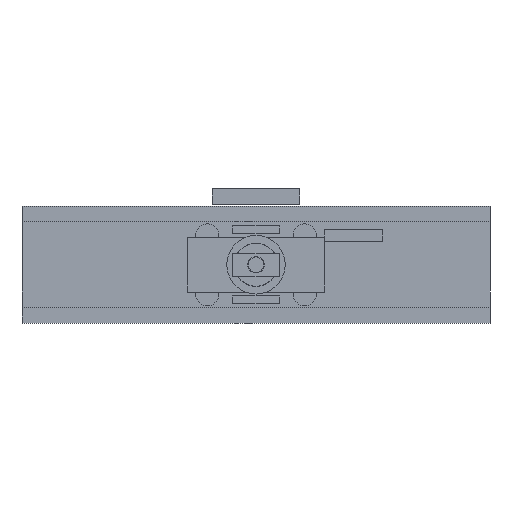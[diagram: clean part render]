
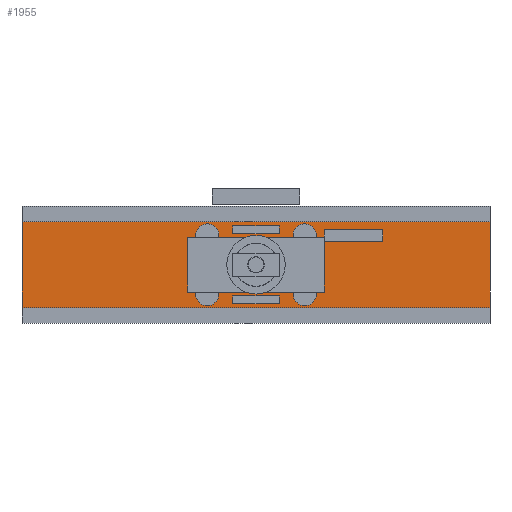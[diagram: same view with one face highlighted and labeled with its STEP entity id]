
A CAD part, front view. The second image highlights one B-rep face of the part: STEP entity #1955.
In plain terms, the highlighted planar face has unit normal (0, -1, 0).
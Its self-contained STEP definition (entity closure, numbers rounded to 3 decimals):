
#1879 = EDGE_CURVE('',#1880,#1882,#1884,.T.);
#1880 = VERTEX_POINT('',#1881);
#1881 = CARTESIAN_POINT('',(-120.,330.,-30.));
#1882 = VERTEX_POINT('',#1883);
#1883 = CARTESIAN_POINT('',(-120.,330.,30.));
#1884 = LINE('',#1885,#1886);
#1885 = CARTESIAN_POINT('',(-120.,330.,-30.));
#1886 = VECTOR('',#1887,1.);
#1887 = DIRECTION('',(0.,0.,1.));
#1919 = EDGE_CURVE('',#1920,#1922,#1924,.T.);
#1920 = VERTEX_POINT('',#1921);
#1921 = CARTESIAN_POINT('',(120.,330.,-30.));
#1922 = VERTEX_POINT('',#1923);
#1923 = CARTESIAN_POINT('',(120.,330.,30.));
#1924 = LINE('',#1925,#1926);
#1925 = CARTESIAN_POINT('',(120.,330.,-30.));
#1926 = VECTOR('',#1927,1.);
#1927 = DIRECTION('',(0.,0.,1.));
#1955 = ADVANCED_FACE('',(#1956),#1972,.F.);
#1956 = FACE_BOUND('',#1957,.F.);
#1957 = EDGE_LOOP('',(#1958,#1964,#1965,#1971));
#1958 = ORIENTED_EDGE('',*,*,#1959,.F.);
#1959 = EDGE_CURVE('',#1880,#1920,#1960,.T.);
#1960 = LINE('',#1961,#1962);
#1961 = CARTESIAN_POINT('',(-120.,330.,-30.));
#1962 = VECTOR('',#1963,1.);
#1963 = DIRECTION('',(1.,0.,0.));
#1964 = ORIENTED_EDGE('',*,*,#1879,.T.);
#1965 = ORIENTED_EDGE('',*,*,#1966,.T.);
#1966 = EDGE_CURVE('',#1882,#1922,#1967,.T.);
#1967 = LINE('',#1968,#1969);
#1968 = CARTESIAN_POINT('',(-120.,330.,30.));
#1969 = VECTOR('',#1970,1.);
#1970 = DIRECTION('',(1.,0.,0.));
#1971 = ORIENTED_EDGE('',*,*,#1919,.F.);
#1972 = PLANE('',#1973);
#1973 = AXIS2_PLACEMENT_3D('',#1974,#1975,#1976);
#1974 = CARTESIAN_POINT('',(-120.,330.,-30.));
#1975 = DIRECTION('',(0.,1.,0.));
#1976 = DIRECTION('',(0.,0.,1.));
